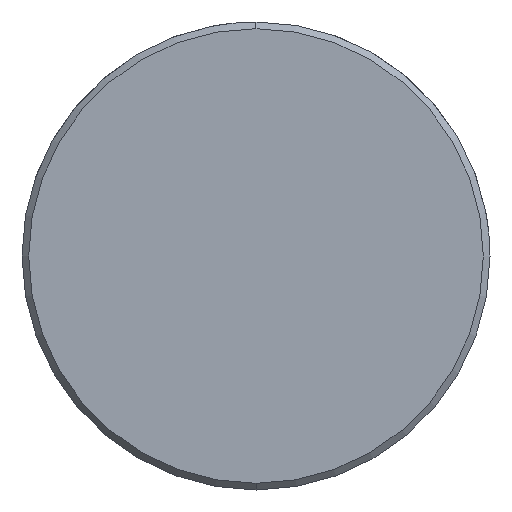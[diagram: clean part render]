
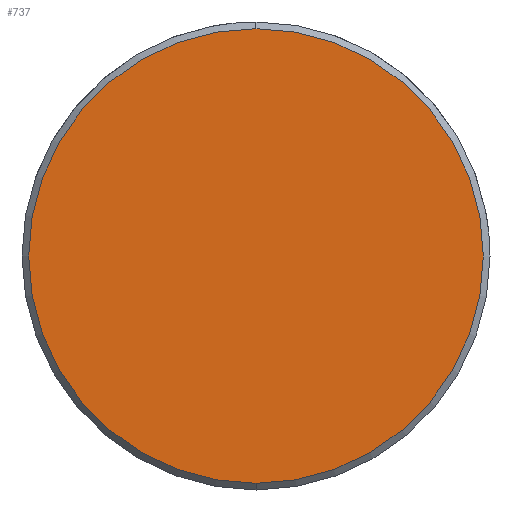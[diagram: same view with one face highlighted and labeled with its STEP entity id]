
A CAD part, left-side view. The second image highlights one B-rep face of the part: STEP entity #737.
In plain terms, the highlighted planar face has unit normal (-1, 0, 0).
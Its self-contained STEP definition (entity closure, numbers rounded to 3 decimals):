
#669=CARTESIAN_POINT('Vertex',(0.,0.,-10.2)) ;
#672=CARTESIAN_POINT('Axis2P3D Location',(0.,0.,0.)) ;
#676=CARTESIAN_POINT('Vertex',(0.,10.2,0.)) ;
#679=CARTESIAN_POINT('Axis2P3D Location',(0.,0.,0.)) ;
#683=CARTESIAN_POINT('Vertex',(0.,0.,10.2)) ;
#705=CARTESIAN_POINT('Axis2P3D Location',(0.,0.,0.)) ;
#709=CARTESIAN_POINT('Vertex',(0.,-10.2,0.)) ;
#712=CARTESIAN_POINT('Axis2P3D Location',(0.,0.,0.)) ;
#726=CARTESIAN_POINT('Axis2P3D Location',(0.,0.,0.)) ;
#673=DIRECTION('Axis2P3D Direction',(1.,0.,-0.)) ;
#680=DIRECTION('Axis2P3D Direction',(1.,0.,-0.)) ;
#706=DIRECTION('Axis2P3D Direction',(1.,0.,-0.)) ;
#713=DIRECTION('Axis2P3D Direction',(1.,0.,-0.)) ;
#727=DIRECTION('Axis2P3D Direction',(1.,0.,-0.)) ;
#728=DIRECTION('Axis2P3D XDirection',(-0.,0.,-1.)) ;
#674=AXIS2_PLACEMENT_3D('Circle Axis2P3D',#672,#673,$) ;
#681=AXIS2_PLACEMENT_3D('Circle Axis2P3D',#679,#680,$) ;
#707=AXIS2_PLACEMENT_3D('Circle Axis2P3D',#705,#706,$) ;
#714=AXIS2_PLACEMENT_3D('Circle Axis2P3D',#712,#713,$) ;
#729=AXIS2_PLACEMENT_3D('Plane Axis2P3D',#726,#727,#728) ;
#732=ORIENTED_EDGE('',*,*,#678,.F.) ;
#733=ORIENTED_EDGE('',*,*,#716,.F.) ;
#734=ORIENTED_EDGE('',*,*,#711,.F.) ;
#735=ORIENTED_EDGE('',*,*,#685,.F.) ;
#737=ADVANCED_FACE('549-18X200',(#736),#730,.F.) ;
#675=CIRCLE('generated circle',#674,10.2) ;
#682=CIRCLE('generated circle',#681,10.2) ;
#708=CIRCLE('generated circle',#707,10.2) ;
#715=CIRCLE('generated circle',#714,10.2) ;
#678=EDGE_CURVE('',#670,#677,#675,.T.) ;
#685=EDGE_CURVE('',#677,#684,#682,.T.) ;
#711=EDGE_CURVE('',#684,#710,#708,.T.) ;
#716=EDGE_CURVE('',#710,#670,#715,.T.) ;
#731=EDGE_LOOP('',(#732,#733,#734,#735)) ;
#736=FACE_OUTER_BOUND('',#731,.T.) ;
#730=PLANE('Plane',#729) ;
#670=VERTEX_POINT('',#669) ;
#677=VERTEX_POINT('',#676) ;
#684=VERTEX_POINT('',#683) ;
#710=VERTEX_POINT('',#709) ;
